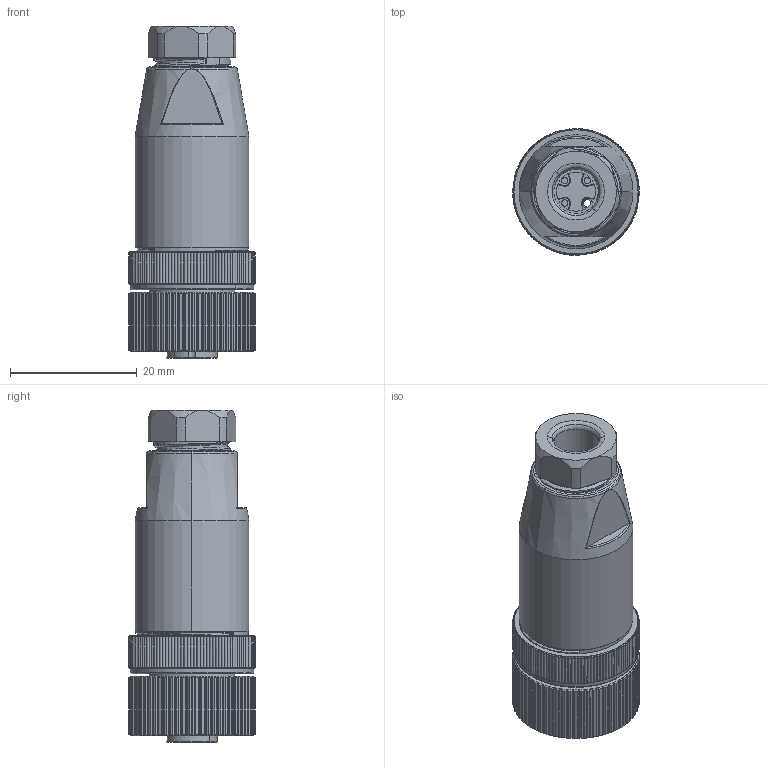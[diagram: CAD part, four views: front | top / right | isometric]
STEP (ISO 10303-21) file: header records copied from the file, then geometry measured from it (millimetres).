
FILE_DESCRIPTION((''),'2;1');
FILE_NAME('XC-M12-WK-PG7','2025-06-20T16:16:43',('lyj'),(''),'CREO PARAMETRIC BY PTC INC, 2019010','CREO PARAMETRIC BY PTC INC, 2019010','');
FILE_SCHEMA(('CONFIG_CONTROL_DESIGN'));
Products named in the file (1): XC-M12-WK-PG7
Bounding box: 20 x 20 x 52.48 mm (x, y, z)
Volume: 8508.8 mm3; surface area: 10538.8 mm2
Topology: 2 solids, 8 shells, 1425 faces, 3803 edges, 2438 vertices
Faces by surface type: cylinder 586, cone 401, plane 346, bspline 47, extrusion 29, torus 16
Entity records: 71397 total; most frequent: CARTESIAN_POINT 37495, ORIENTED_EDGE 7606, DIRECTION 6452, EDGE_CURVE 3803, AXIS2_PLACEMENT_3D 2583, VERTEX_POINT 2438, EDGE_LOOP 1499, FACE_OUTER_BOUND 1425
